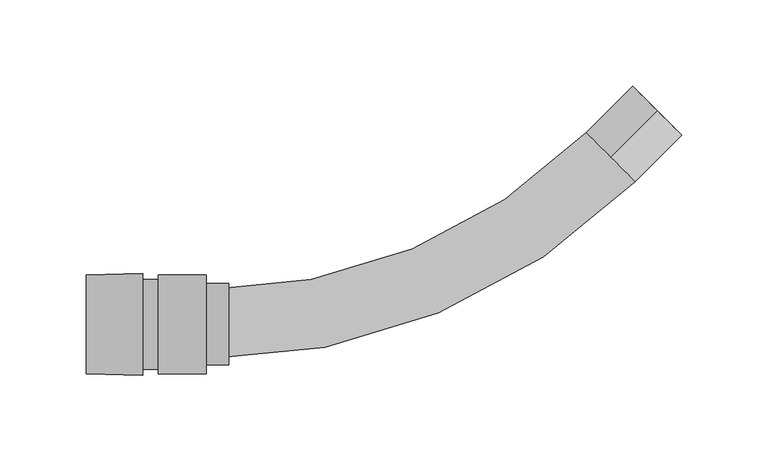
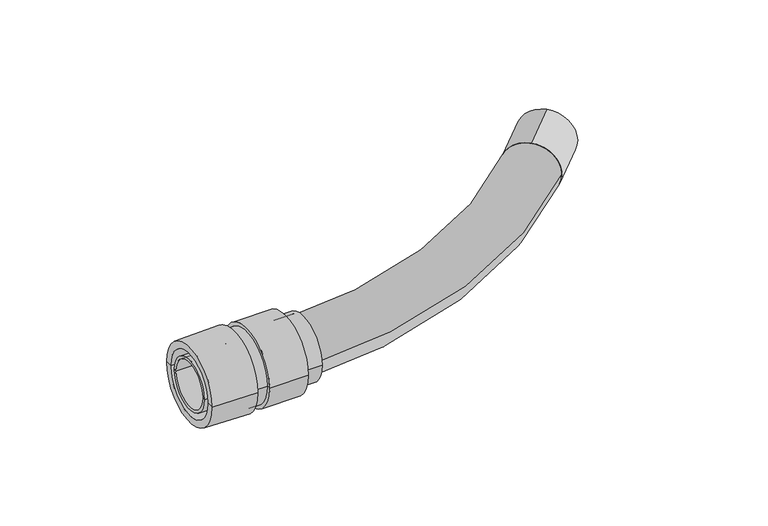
"""IFC4 building model written with IfcOpenShell, lengths in millimetres: cable carrier fitting geometry, КНС_МуфтаГибкаяТрубаКоробка_IP65_DKC : Коробка."""

from ifc_helpers import new_model, si_unit, point, frame, frame_2d, origin, place, context, project, spatial, polyline, circle_curve, ellipse_curve, trimmed, segment, composite_curve, outline, extrude, source, transform, mapped, element, save
from ifc_brep_helpers import plane_surface, cylinder_surface, revolved_surface, advanced_brep


def cable_carrier_fitting_e3ed867f(model_context):
    return source(origin(), model_context, "Body", "SolidModel", [
        advanced_brep(
        [(-124.1222028, -21.5353846, 0.0), (-124.1222028, 21.5353846, 0.0), (-174.1222028, 21.5353846, 0.0), (-174.1222028, -21.5353846, 0.0), (-124.1222028, -23.6, 0.0), (-124.1222028, 23.6, 0.0), (-137.1222028, -23.6, 0.0), (-137.1222028, 23.6, 0.0), (-137.1222028, -28.75, 0.0), (-137.1222028, 28.75, 0.0), (-165.1222028, -28.75, 0.0), (-165.1222028, 28.75, 0.0), (-165.1222028, -26.175, 0.0), (-165.1222028, 26.175, 0.0), (-174.1222028, -26.175, 0.0), (-174.1222028, 26.175, 0.0)],
        [
            (0, 1, circle_curve(frame((-124.1222028, 0.0, 0.0), z_axis=(1.0, 0.0, 0.0), x_axis=(0.0, 1.0, 0.0)), 21.5353846)),
            (1, 2),
            (2, 3, circle_curve(frame((-174.1222028, 0.0, 0.0), z_axis=(-1.0, 0.0, 0.0), x_axis=(0.0, 1.0, 0.0)), 21.5353846)),
            (3, 0),
            (1, 0, circle_curve(frame((-124.1222028, 0.0, 0.0), z_axis=(1.0, 0.0, 0.0), x_axis=(0.0, 1.0, 0.0)), 21.5353846)),
            (3, 2, circle_curve(frame((-174.1222028, 0.0, 0.0), z_axis=(-1.0, 0.0, 0.0), x_axis=(0.0, 1.0, 0.0)), 21.5353846)),
            (4, 5, circle_curve(frame((-124.1222028, 0.0, 0.0), z_axis=(1.0, 0.0, 0.0), x_axis=(0.0, 1.0, 0.0)), 23.6)),
            (5, 1),
            (0, 4),
            (5, 4, circle_curve(frame((-124.1222028, 0.0, 0.0), z_axis=(1.0, 0.0, 0.0), x_axis=(0.0, 1.0, 0.0)), 23.6)),
            (6, 7, circle_curve(frame((-137.1222028, 0.0, 0.0), z_axis=(1.0, 0.0, 0.0), x_axis=(0.0, 1.0, 0.0)), 23.6)),
            (7, 5),
            (4, 6),
            (7, 6, circle_curve(frame((-137.1222028, 0.0, 0.0), z_axis=(1.0, 0.0, 0.0), x_axis=(0.0, 1.0, 0.0)), 23.6)),
            (8, 9, circle_curve(frame((-137.1222028, 0.0, 0.0), z_axis=(1.0, 0.0, 0.0), x_axis=(0.0, 1.0, 0.0)), 28.75)),
            (9, 7),
            (6, 8),
            (9, 8, circle_curve(frame((-137.1222028, 0.0, 0.0), z_axis=(1.0, 0.0, 0.0), x_axis=(0.0, 1.0, 0.0)), 28.75)),
            (10, 11, circle_curve(frame((-165.1222028, 0.0, 0.0), z_axis=(1.0, 0.0, 0.0), x_axis=(0.0, 1.0, 0.0)), 28.75)),
            (11, 9),
            (8, 10),
            (11, 10, circle_curve(frame((-165.1222028, 0.0, 0.0), z_axis=(1.0, 0.0, 0.0), x_axis=(0.0, 1.0, 0.0)), 28.75)),
            (12, 13, circle_curve(frame((-165.1222028, 0.0, 0.0), z_axis=(1.0, 0.0, 0.0), x_axis=(0.0, 1.0, 0.0)), 26.175)),
            (13, 11),
            (10, 12),
            (13, 12, circle_curve(frame((-165.1222028, 0.0, 0.0), z_axis=(1.0, 0.0, 0.0), x_axis=(0.0, 1.0, 0.0)), 26.175)),
            (14, 15, circle_curve(frame((-174.1222028, 0.0, 0.0), z_axis=(1.0, 0.0, 0.0), x_axis=(0.0, 1.0, 0.0)), 26.175)),
            (15, 13),
            (12, 14),
            (15, 14, circle_curve(frame((-174.1222028, 0.0, 0.0), z_axis=(1.0, 0.0, 0.0), x_axis=(0.0, 1.0, 0.0)), 26.175)),
            (2, 15),
            (14, 3),
        ],
        [
            revolved_surface(polyline([(-174.12220279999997, 21.5353846, 0.0), (-124.12220279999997, 21.5353846, 0.0)]), (1364.3777972, 0.0, 0.0), (-1.0, 0.0, 0.0)),
            plane_surface(frame((-124.1222028, 0.0, 0.0), z_axis=(1.0, 0.0, 0.0), x_axis=(0.0, 1.0, 0.0))),
            cylinder_surface(frame((1364.3777972, 0.0, 0.0), z_axis=(-1.0, 0.0, 0.0), x_axis=(0.0, 1.0, 0.0)), 23.6),
            plane_surface(frame((-137.1222028, 0.0, 0.0), z_axis=(1.0, 0.0, 0.0), x_axis=(0.0, 1.0, 0.0))),
            cylinder_surface(frame((1364.3777972, 0.0, 0.0), z_axis=(-1.0, 0.0, 0.0), x_axis=(0.0, 1.0, 0.0)), 28.75),
            plane_surface(frame((-165.1222028, 0.0, 0.0), z_axis=(-1.0, 0.0, 0.0), x_axis=(0.0, 1.0, 0.0))),
            cylinder_surface(frame((1364.3777972, 0.0, 0.0), z_axis=(-1.0, 0.0, 0.0), x_axis=(0.0, 1.0, 0.0)), 26.175),
            plane_surface(frame((-174.1222028, 0.0, 0.0), z_axis=(-1.0, 0.0, 0.0), x_axis=(0.0, 1.0, 0.0))),
        ],
        [
            (0, [[1, 2, 3, 4]]),
            (0, [[5, -4, 6, -2]]),
            (1, [[7, 8, -1, 9]]),
            (1, [[10, -9, -5, -8]]),
            (2, [[11, 12, -7, 13]]),
            (2, [[14, -13, -10, -12]]),
            (3, [[15, 16, -11, 17]]),
            (3, [[18, -17, -14, -16]]),
            (4, [[19, 20, -15, 21]]),
            (4, [[22, -21, -18, -20]]),
            (5, [[23, 24, -19, 25]]),
            (5, [[26, -25, -22, -24]]),
            (6, [[27, 28, -23, 29]]),
            (6, [[30, -29, -26, -28]]),
            (7, [[-3, 31, -27, 32]]),
            (7, [[-6, -32, -30, -31]]),
        ],
    ),
        advanced_brep(
        [(-174.1222028, -29.5, 0.0), (-174.1222028, 29.5, 0.0), (-174.1222028, 23.6, 0.0), (-174.1222028, -23.6, 0.0), (-206.6222028, -28.75, 0.0), (-206.6222028, 28.75, 0.0), (-206.6222028, -23.6, 0.0), (-206.6222028, 23.6, 0.0)],
        [
            (0, 1, circle_curve(frame((-174.1222028, 0.0, 0.0), z_axis=(1.0, 0.0, 0.0), x_axis=(0.0, 1.0, 0.0)), 29.5)),
            (1, 2),
            (2, 3, circle_curve(frame((-174.1222028, 0.0, 0.0), z_axis=(-1.0, 0.0, 0.0), x_axis=(0.0, 1.0, 0.0)), 23.6)),
            (3, 0),
            (1, 0, circle_curve(frame((-174.1222028, 0.0, 0.0), z_axis=(1.0, 0.0, 0.0), x_axis=(0.0, 1.0, 0.0)), 29.5)),
            (3, 2, circle_curve(frame((-174.1222028, 0.0, 0.0), z_axis=(-1.0, 0.0, 0.0), x_axis=(0.0, 1.0, 0.0)), 23.6)),
            (4, 5, circle_curve(frame((-206.6222028, 0.0, 0.0), z_axis=(1.0, 0.0, 0.0), x_axis=(0.0, 1.0, 0.0)), 28.75)),
            (5, 1),
            (0, 4),
            (5, 4, circle_curve(frame((-206.6222028, 0.0, 0.0), z_axis=(1.0, 0.0, 0.0), x_axis=(0.0, 1.0, 0.0)), 28.75)),
            (6, 7, circle_curve(frame((-206.6222028, 0.0, 0.0), z_axis=(1.0, 0.0, 0.0), x_axis=(0.0, 1.0, 0.0)), 23.6)),
            (7, 5),
            (4, 6),
            (7, 6, circle_curve(frame((-206.6222028, 0.0, 0.0), z_axis=(1.0, 0.0, 0.0), x_axis=(0.0, 1.0, 0.0)), 23.6)),
            (2, 7),
            (6, 3),
        ],
        [
            plane_surface(frame((-174.1222028, 0.0, 0.0), z_axis=(1.0, 0.0, 0.0), x_axis=(0.0, 1.0, 0.0))),
            revolved_surface(polyline([(-174.1222028, 29.5, 0.0), (-206.6222028, 28.75, 0.0)]), (1364.3777972, 0.0, 0.0), (-1.0, 0.0, 0.0)),
            plane_surface(frame((-206.6222028, 0.0, 0.0), z_axis=(-1.0, 0.0, 0.0), x_axis=(0.0, 1.0, 0.0))),
            revolved_surface(polyline([(-206.62220279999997, 23.6, 0.0), (-174.12220279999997, 23.6, 0.0)]), (1364.3777972, 0.0, 0.0), (-1.0, 0.0, 0.0)),
        ],
        [
            (0, [[1, 2, 3, 4]]),
            (0, [[5, -4, 6, -2]]),
            (1, [[7, 8, -1, 9]]),
            (1, [[10, -9, -5, -8]]),
            (2, [[11, 12, -7, 13]]),
            (2, [[14, -13, -10, -12]]),
            (3, [[-3, 15, -11, 16]]),
            (3, [[-6, -16, -14, -15]]),
        ],
    ),
        advanced_brep(
        [(-206.6222028, -19.0, 0.0), (-206.6222028, 19.0, 0.0), (-174.1222028, 19.0, 0.0), (-174.1222028, -19.0, 0.0), (-206.6222028, -17.0, 0.0), (-206.6222028, 17.0, 0.0), (-174.1222028, -17.0, 0.0), (-174.1222028, 17.0, 0.0)],
        [
            (0, 1, circle_curve(frame((-206.6222028, 0.0, 0.0), z_axis=(1.0, 0.0, 0.0), x_axis=(0.0, 1.0, 0.0)), 19.0)),
            (1, 2),
            (2, 3, circle_curve(frame((-174.1222028, 0.0, 0.0), z_axis=(-1.0, 0.0, 0.0), x_axis=(0.0, 1.0, 0.0)), 19.0)),
            (3, 0),
            (1, 0, circle_curve(frame((-206.6222028, 0.0, 0.0), z_axis=(1.0, 0.0, 0.0), x_axis=(0.0, 1.0, 0.0)), 19.0)),
            (3, 2, circle_curve(frame((-174.1222028, 0.0, 0.0), z_axis=(-1.0, 0.0, 0.0), x_axis=(0.0, 1.0, 0.0)), 19.0)),
            (4, 5, circle_curve(frame((-206.6222028, 0.0, 0.0), z_axis=(1.0, 0.0, 0.0), x_axis=(0.0, 1.0, 0.0)), 17.0)),
            (5, 1),
            (0, 4),
            (5, 4, circle_curve(frame((-206.6222028, 0.0, 0.0), z_axis=(1.0, 0.0, 0.0), x_axis=(0.0, 1.0, 0.0)), 17.0)),
            (6, 7, circle_curve(frame((-174.1222028, 0.0, 0.0), z_axis=(1.0, 0.0, 0.0), x_axis=(0.0, 1.0, 0.0)), 17.0)),
            (7, 5),
            (4, 6),
            (7, 6, circle_curve(frame((-174.1222028, 0.0, 0.0), z_axis=(1.0, 0.0, 0.0), x_axis=(0.0, 1.0, 0.0)), 17.0)),
            (2, 7),
            (6, 3),
        ],
        [
            cylinder_surface(frame((1364.3777972, 0.0, 0.0), z_axis=(-1.0, 0.0, 0.0), x_axis=(0.0, 1.0, 0.0)), 19.0),
            plane_surface(frame((-206.6222028, 0.0, 0.0), z_axis=(-1.0, 0.0, 0.0), x_axis=(0.0, 1.0, 0.0))),
            revolved_surface(polyline([(-206.62220279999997, 17.0, 0.0), (-174.12220279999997, 17.0, 0.0)]), (1364.3777972, 0.0, 0.0), (-1.0, 0.0, 0.0)),
            plane_surface(frame((-174.1222028, 0.0, 0.0), z_axis=(1.0, 0.0, 0.0), x_axis=(0.0, 1.0, 0.0))),
        ],
        [
            (0, [[1, 2, 3, 4]]),
            (0, [[5, -4, 6, -2]]),
            (1, [[7, 8, -1, 9]]),
            (1, [[10, -9, -5, -8]]),
            (2, [[11, 12, -7, 13]]),
            (2, [[14, -13, -10, -12]]),
            (3, [[-3, 15, -11, 16]]),
            (3, [[-6, -16, -14, -15]]),
        ],
    ),
        extrude(outline(composite_curve([segment(trimmed(circle_curve(frame_2d((0.0, -20.0)), 20.0), [point((0.0, -40.0))], [point((0.0, 0.0))], False, "CARTESIAN"), True, "CONTINUOUS"), segment(trimmed(circle_curve(frame_2d((0.0, -20.0)), 20.0), [point((0.0, 0.0))], [point((0.0, -40.0))], False, "CARTESIAN"), True, "CONTINUOUS")], self_intersect=False), holes=[composite_curve([segment(trimmed(circle_curve(frame_2d((0.0, -20.0)), 19.0), [point((0.0, -39.0))], [point((0.0, -1.0))], True, "CARTESIAN"), True, "CONTINUOUS"), segment(trimmed(circle_curve(frame_2d((0.0, -20.0)), 19.0), [point((0.0, -1.0))], [point((0.0, -39.0))], True, "CARTESIAN"), True, "CONTINUOUS")], self_intersect=False)]), frame((96.9600394, 96.9600394, 20.0), z_axis=(0.7071067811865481, 0.707106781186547, 0.0), x_axis=(-0.707106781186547, 0.7071067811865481, 0.0)), (0.0, 0.0, 1.0), 38.0),
        advanced_brep(
        [(82.8179038, 111.1021751, 0.0), (111.1021751, 82.8179038, 0.0), (-137.1222028, 20.0, 0.0), (-137.1222028, -20.0, 0.0)],
        [
            (0, 1, circle_curve(frame((96.9600394, 96.9600394, 0.0), z_axis=(0.7071067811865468, 0.7071067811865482, 0.0), x_axis=(0.7071067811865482, -0.7071067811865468, 0.0)), 20.0)),
            (1, 0, circle_curve(frame((96.9600394, 96.9600394, 0.0), z_axis=(0.7071067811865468, 0.7071067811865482, 0.0), x_axis=(0.7071067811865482, -0.7071067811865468, 0.0)), 20.0)),
            (2, 3, circle_curve(frame((-137.1222028, 0.0, 0.0), z_axis=(-1.0, 0.0, 0.0), x_axis=(0.0, -1.0, 0.0)), 20.0)),
            (3, 2, circle_curve(frame((-137.1222028, 0.0, 0.0), z_axis=(-1.0, 0.0, 0.0), x_axis=(0.0, -1.0, 0.0)), 20.0)),
            (3, 1, circle_curve(frame((-137.1222028, 331.0422816, 0.0), z_axis=(0.0, 0.0, 1.0), x_axis=(0.7071067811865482, -0.7071067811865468, 0.0)), 351.0422816)),
            (0, 2, circle_curve(frame((-137.1222028, 331.0422816, 0.0), z_axis=(0.0, 0.0, -1.0), x_axis=(0.7071067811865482, -0.7071067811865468, 0.0)), 311.0422816)),
        ],
        [
            plane_surface(frame((96.9600394, 96.9600394, 0.0), z_axis=(0.7071067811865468, 0.7071067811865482, 0.0), x_axis=(0.0, 0.0, 1.0))),
            plane_surface(frame((-137.1222028, 0.0, 0.0), z_axis=(-1.0, 0.0, 0.0), x_axis=(0.0, 0.0, 1.0))),
            revolved_surface(trimmed(ellipse_curve(frame((96.9600394, 96.9600394, 0.0), z_axis=(0.7071067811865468, 0.7071067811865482, 0.0), x_axis=(0.7071067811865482, -0.7071067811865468, 0.0)), 20.0, 20.0), [point((82.8179038, 111.1021751, 0.0))], [point((111.1021751, 82.8179038, 0.0))], True, "CARTESIAN"), (-137.1222028, 331.0422816, 0.0), (0.0, 0.0, -1.0)),
            revolved_surface(trimmed(ellipse_curve(frame((96.9600394, 96.9600394, 0.0), z_axis=(0.7071067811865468, 0.7071067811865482, 0.0), x_axis=(0.7071067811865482, -0.7071067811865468, 0.0)), 20.0, 20.0), [point((111.1021751, 82.8179038, 0.0))], [point((82.8179038, 111.1021751, 0.0))], True, "CARTESIAN"), (-137.1222028, 331.0422816, 0.0), (0.0, 0.0, -1.0)),
        ],
        [
            (0, [[1, 2]]),
            (1, [[3, 4]]),
            (2, [[5, -1, 6, -4]]),
            (3, [[-6, -2, -5, -3]]),
        ],
    ),
    ])


if __name__ == "__main__":
    model = new_model("IFC4")
    model_context = context("Model", 3, world=origin())
    ifc_project = project(units=[si_unit("LENGTHUNIT", "METRE", prefix="MILLI")], contexts=[model_context])
    site = spatial("IfcSite", under=ifc_project)
    building = spatial("IfcBuilding", under=site)
    placement = place(None, origin())
    cable_carrier_fitting_shape = cable_carrier_fitting_e3ed867f(model_context)
    element("IfcCableCarrierFitting", 1, ObjectType="КНС_МуфтаГибкаяТрубаКоробка_IP65_DKC : Коробка", at=placement, inside=building, context=model_context, shape_type="MappedRepresentation", body=[
        mapped(cable_carrier_fitting_shape, transform((0.0, 0.0, 0.0), x_axis=(1.0, 0.0, 0.0), y_axis=(0.0, 1.0, 0.0), z_axis=(0.0, 0.0, 1.0))),
    ])
    save(model, "model.ifc")
